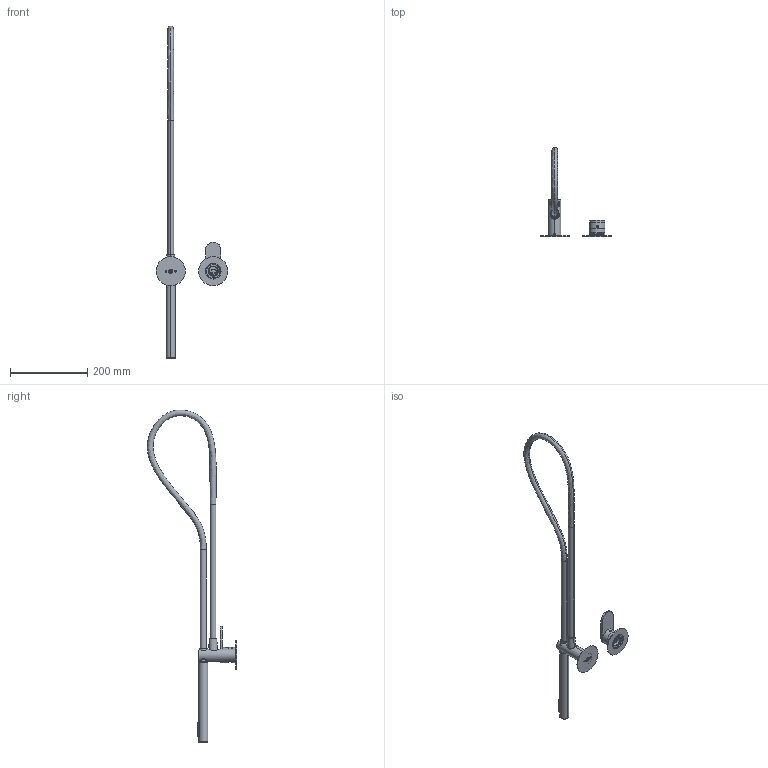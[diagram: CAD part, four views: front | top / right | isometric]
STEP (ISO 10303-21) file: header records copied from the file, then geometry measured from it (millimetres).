
FILE_DESCRIPTION((''),'2;1');
FILE_NAME('7955721_SW0001','2026-10-07T09:46:50',('carloff'),(''),'CREO PARAMETRIC BY PTC INC, 2025443','CREO PARAMETRIC BY PTC INC, 2025443','');
FILE_SCHEMA(('CONFIG_CONTROL_DESIGN'));
Length unit declared in the file: millimetre
Products named in the file (1): 7955721_SW0001
Bounding box: 185 x 230.72 x 858.69 mm (x, y, z)
Volume: 461643.1 mm3; surface area: 145005.4 mm2
Topology: 5 solids, 6 shells, 760 faces, 1664 edges, 1028 vertices
Faces by surface type: cylinder 320, plane 207, torus 158, cone 68, bspline 5, sphere 2
Entity records: 22750 total; most frequent: CARTESIAN_POINT 5505, DIRECTION 3959, ORIENTED_EDGE 3308, AXIS2_PLACEMENT_3D 1709, EDGE_CURVE 1654, VERTEX_POINT 1028, CIRCLE 953, EDGE_LOOP 908
